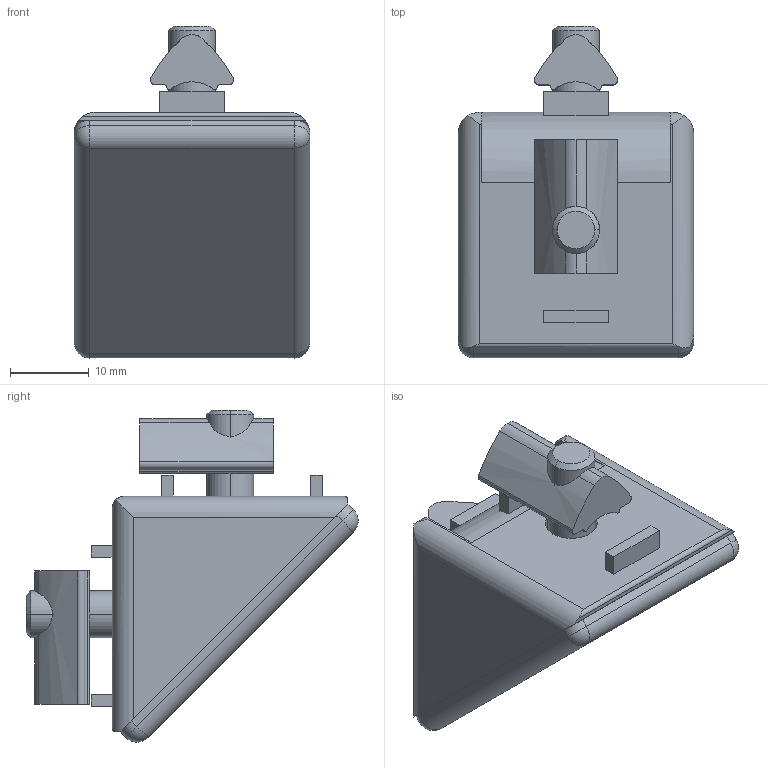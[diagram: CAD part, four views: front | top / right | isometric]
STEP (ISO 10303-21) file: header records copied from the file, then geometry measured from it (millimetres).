
FILE_DESCRIPTION(('STEP AP214'),'1');
FILE_NAME('cctmp_05654F85-495D-4460-8289-FB48E0FD8A5E_2020_12_17_18_36_59_0466..stp','2020-12-17T17:36:59',('item Industrietechnik GmbH'),('CADClick - www.CADClick.com'),'Spatial InterOp 3D',' ','unknown authorization');
FILE_SCHEMA(('AUTOMOTIVE_DESIGN'));
Length unit declared in the file: millimetre
Products named in the file (7): cc_unnamed; item_0041967_Angle Bracket Set 6 30x30_5; item_0041967_Angle Bracket Set 6 30x30_4; item_0041967_Angle Bracket Set 6 30x30_3; item_0041967_Angle Bracket Set 6 30x30_2; item_0041967_Angle Bracket Set 6 30x30_1; item_0041967_Angle Bracket Set 6 30x30
Assembly tree (6 placements, depth 2):
  cc_unnamed
    item_0041967_Angle Bracket Set 6 30x30_5
    item_0041967_Angle Bracket Set 6 30x30_4
    item_0041967_Angle Bracket Set 6 30x30_3
    item_0041967_Angle Bracket Set 6 30x30_2
    item_0041967_Angle Bracket Set 6 30x30_1
    item_0041967_Angle Bracket Set 6 30x30
Bounding box: 30 x 42.28 x 42.28 mm (x, y, z)
Volume: 13215.8 mm3; surface area: 10444.5 mm2
Topology: 6 solids, 6 shells, 171 faces, 428 edges, 272 vertices
Faces by surface type: cylinder 80, plane 75, torus 8, cone 4, sphere 4
Entity records: 7130 total; most frequent: CARTESIAN_POINT 1438, DIRECTION 886, ORIENTED_EDGE 848, EDGE_CURVE 424, AXIS2_PLACEMENT_3D 326, VERTEX_POINT 272, LINE 234, VECTOR 234
